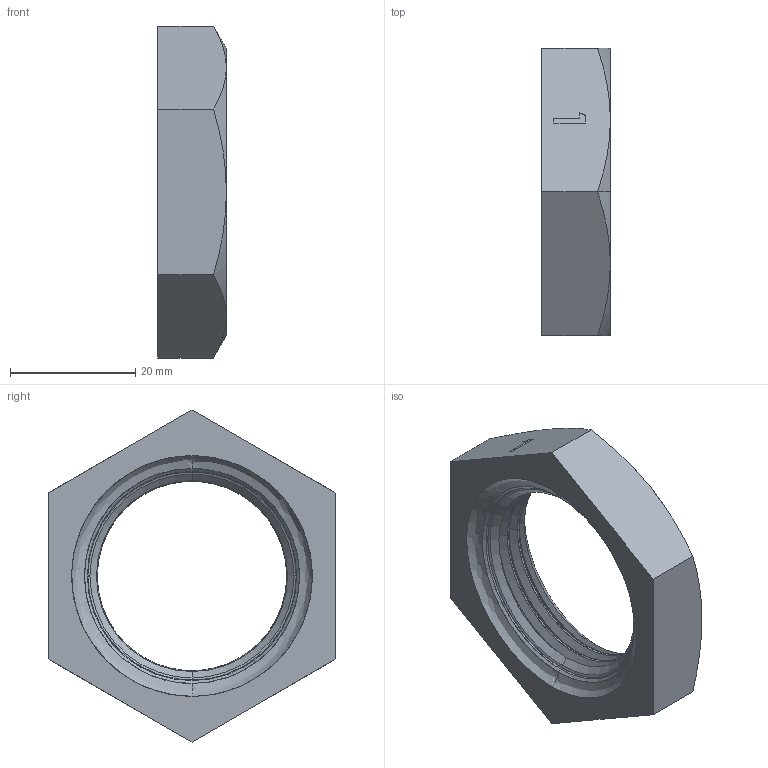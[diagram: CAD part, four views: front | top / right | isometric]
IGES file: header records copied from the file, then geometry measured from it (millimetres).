
Start section: SolidWorks IGES file using analytic representation for surfaces
Global section: file name: C:\Users\Joel Rosa\Desktop\Tubulação\12-06-XXX\12-06-007.IGS; native system: SolidWorks 2011; preprocessor: SolidWorks 2011; author: Joel Rosa; date: 130806.181604; units: millimetre
Bounding box: 11 x 46 x 53.12 mm (x, y, z)
Surface area: 5189 mm2 (no closed solid volume)
Topology: 0 solids, 0 shells, 128 faces, 1283 edges, 1283 vertices
Faces by surface type: bspline 101, revolution 27
